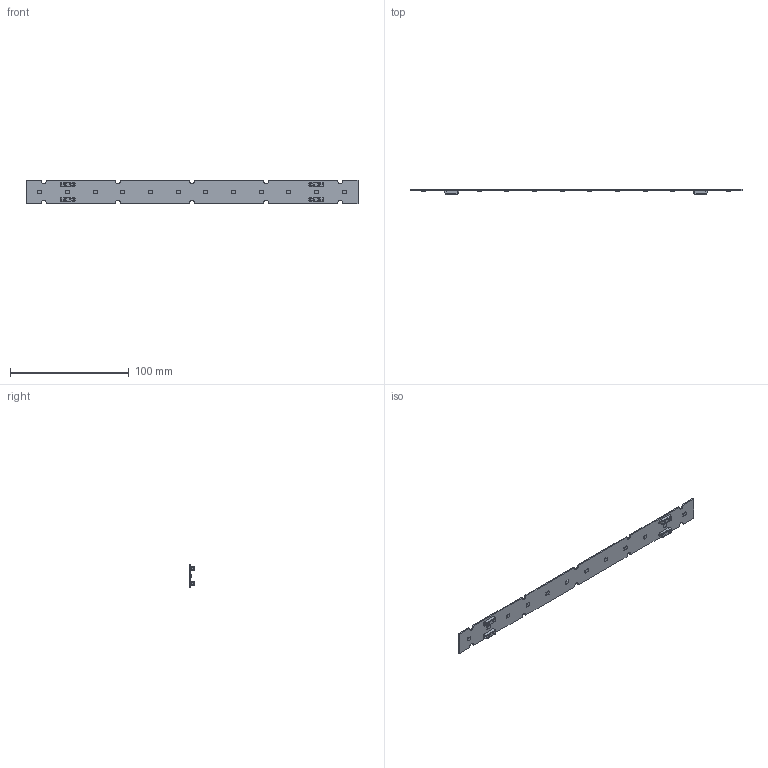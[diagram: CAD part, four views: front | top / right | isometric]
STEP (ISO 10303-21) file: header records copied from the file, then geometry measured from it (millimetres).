
FILE_DESCRIPTION(/* description */ ('Unknown'),/* implementation_level */ '2;1');
FILE_NAME(/* name */ 'LinLED 280x20mm 550lm 4C 36V Opt G2 sh-215 2020-10-09',/* time_stamp */ '2020-10-09T11:08:35+02:00',/* author */ ('Unknown'),/* organization */ ('Unknown'),/* preprocessor_version */ 'ST-DEVELOPER v16.7',/* originating_system */ 'Solid Edge',/* authorisation */ 'Unknown');
FILE_SCHEMA (('AUTOMOTIVE_DESIGN {1 0 10303 214 3 1 1}'));
Products named in the file (1): LinLED 280x20mm 550lm 4C 36V Opt G2 sh-215 2020-10-09
Bounding box: 280 x 4.45 x 20 mm (x, y, z)
Volume: 6049.9 mm3; surface area: 12543.2 mm2
Topology: 1 solids, 1 shells, 1182 faces, 3056 edges, 1900 vertices
Faces by surface type: plane 600, cylinder 262, bspline 208, cone 60, sphere 32, torus 20
Entity records: 49492 total; most frequent: CARTESIAN_POINT 14647, ORIENTED_EDGE 6016, DIRECTION 4682, EDGE_CURVE 3008, VERTEX_POINT 1888, LINE 1772, VECTOR 1772, AXIS2_PLACEMENT_3D 1455
